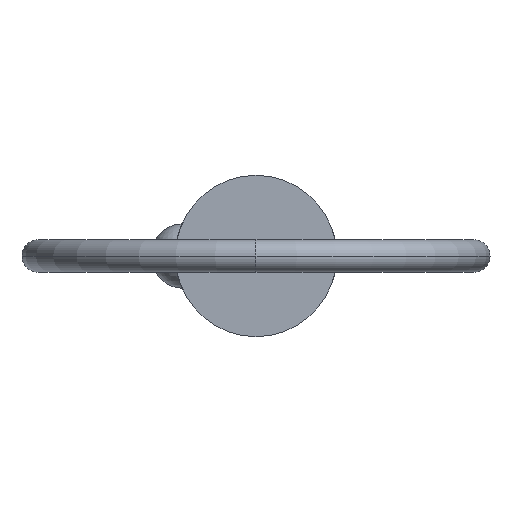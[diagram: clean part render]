
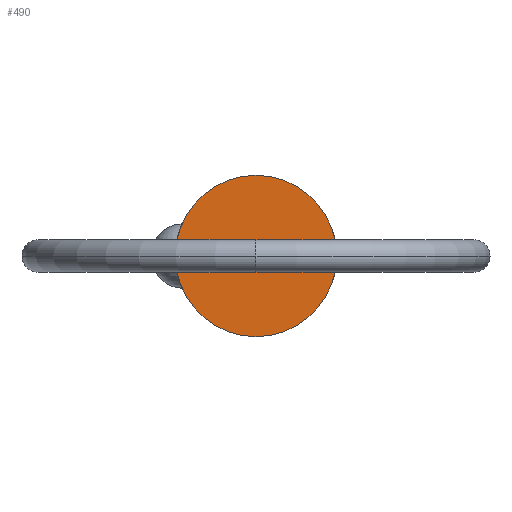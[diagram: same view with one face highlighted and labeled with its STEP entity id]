
A CAD part, left-side view. The second image highlights one B-rep face of the part: STEP entity #490.
In plain terms, the highlighted planar face has unit normal (-1, 0, 0).
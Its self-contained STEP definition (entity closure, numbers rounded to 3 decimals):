
#7 = CARTESIAN_POINT ( 'NONE',  ( 0., 0., 0. ) ) ;
#22 = AXIS2_PLACEMENT_3D ( 'NONE', #605, #482, #491 ) ;
#56 = DIRECTION ( 'NONE',  ( 1., 0., 0. ) ) ;
#76 = DIRECTION ( 'NONE',  ( 0., 0., -1. ) ) ;
#205 = EDGE_LOOP ( 'NONE', ( #488, #456 ) ) ;
#239 = EDGE_CURVE ( 'NONE', #770, #328, #777, .T. ) ;
#263 = CARTESIAN_POINT ( 'NONE',  ( 0., 0., -4.7 ) ) ;
#272 = CARTESIAN_POINT ( 'NONE',  ( 0., 0., 4.7 ) ) ;
#326 = AXIS2_PLACEMENT_3D ( 'NONE', #707, #56, #585 ) ;
#328 = VERTEX_POINT ( 'NONE', #272 ) ;
#402 = EDGE_CURVE ( 'NONE', #328, #770, #857, .T. ) ;
#404 = AXIS2_PLACEMENT_3D ( 'NONE', #7, #611, #76 ) ;
#414 = FACE_OUTER_BOUND ( 'NONE', #205, .T. ) ;
#456 = ORIENTED_EDGE ( 'NONE', *, *, #402, .F. ) ;
#482 = DIRECTION ( 'NONE',  ( -1., 0., 0. ) ) ;
#488 = ORIENTED_EDGE ( 'NONE', *, *, #239, .F. ) ;
#490 = ADVANCED_FACE ( 'NONE', ( #414 ), #812, .T. ) ;
#491 = DIRECTION ( 'NONE',  ( 0., 0., 1. ) ) ;
#585 = DIRECTION ( 'NONE',  ( 0., 0., -1. ) ) ;
#605 = CARTESIAN_POINT ( 'NONE',  ( 0., 0., 0. ) ) ;
#611 = DIRECTION ( 'NONE',  ( 1., 0., 0. ) ) ;
#707 = CARTESIAN_POINT ( 'NONE',  ( 0., 0., 0. ) ) ;
#770 = VERTEX_POINT ( 'NONE', #263 ) ;
#777 = CIRCLE ( 'NONE', #326, 4.7 ) ;
#812 = PLANE ( 'NONE',  #22 ) ;
#857 = CIRCLE ( 'NONE', #404, 4.7 ) ;
